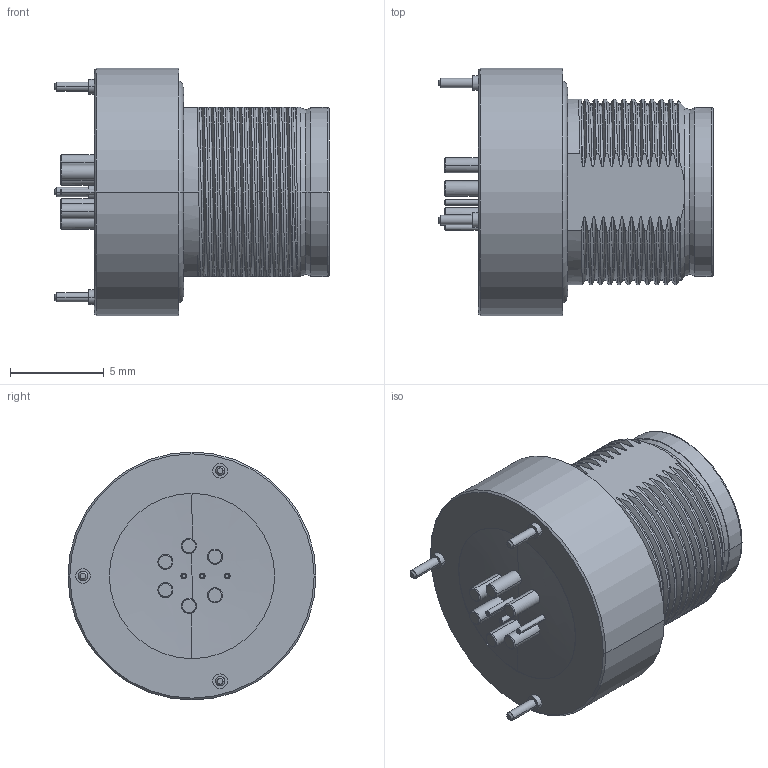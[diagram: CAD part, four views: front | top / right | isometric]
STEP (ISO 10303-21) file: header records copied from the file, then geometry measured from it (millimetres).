
FILE_DESCRIPTION((''),'2;1');
FILE_NAME('00059473-A_ASM','2020-10-30T08:29:02',('EUnterhaslberger'),(''),'CREO PARAMETRIC BY PTC INC, 2018300','CREO PARAMETRIC BY PTC INC, 2018300','');
FILE_SCHEMA(('AP242_MANAGED_MODEL_BASED_3D_ENGINEERING_MIM_LF { 1 0 10303 442 1 1 4 }'));
Length unit declared in the file: millimetre
Products named in the file (4): TEMP_SW_STEP_MONOBLOCK_1_1; TEMP_SW_STEP_MONOBLOCK_1_2; TEMP_SW_STEP_MONOBLOCK_1_ASM; 00059473-A_ASM
Assembly tree (3 placements, depth 3):
  00059473-A_ASM
    TEMP_SW_STEP_MONOBLOCK_1_ASM
      TEMP_SW_STEP_MONOBLOCK_1_1
      TEMP_SW_STEP_MONOBLOCK_1_2
Bounding box: 14.6 x 13.2 x 13.2 mm (x, y, z)
Volume: 909.1 mm3; surface area: 1241.6 mm2
Topology: 2 solids, 2 shells, 359 faces, 957 edges, 647 vertices
Faces by surface type: cylinder 114, plane 94, bspline 72, cone 56, torus 23
Entity records: 24195 total; most frequent: CARTESIAN_POINT 13009, ORIENTED_EDGE 1910, DIRECTION 1592, EDGE_CURVE 955, AXIS2_PLACEMENT_3D 656, VERTEX_POINT 647, EDGE_LOOP 408, CIRCLE 360
